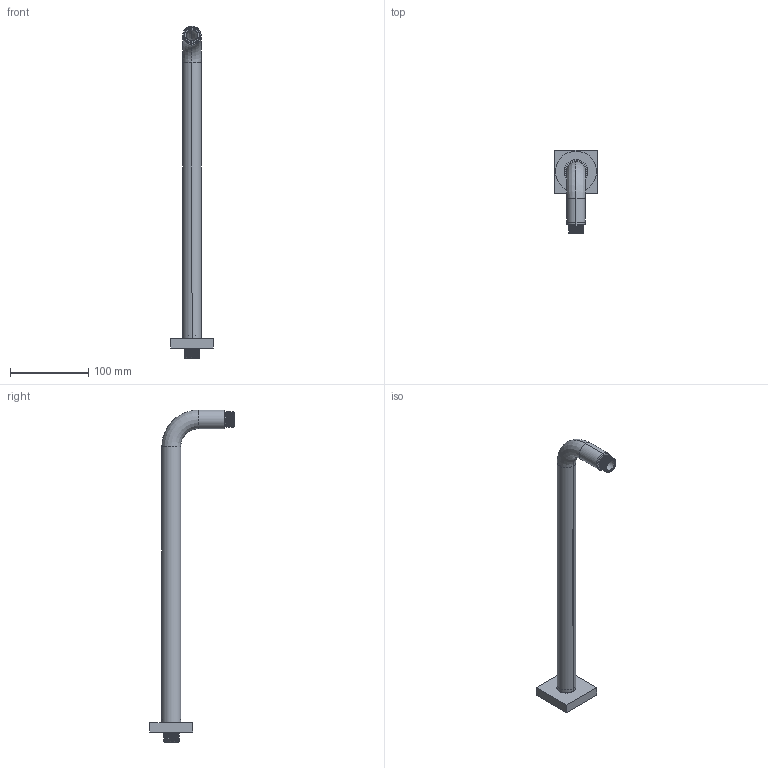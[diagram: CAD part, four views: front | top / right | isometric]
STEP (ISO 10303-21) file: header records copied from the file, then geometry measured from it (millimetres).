
FILE_DESCRIPTION(/* description */ (''),/* implementation_level */ '2;1');
FILE_NAME(/* name */ 'c:\worker\convert-fusion-r05\tmp\job-1\149\output\files\0319fdd0-7cb2-4aa0-8b2a-482ba26fd6fd\26d5d32e-8ac6-46c5-8760-7bb6c9cf09ba.stp',/* time_stamp */ '2019-08-01T11:49:49+00:00',/* author */ (''),/* organization */ (''),/* preprocessor_version */ 'ST-DEVELOPER v18',/* originating_system */ 'Autodesk Translation Framework v8.2.0.1029',/* authorisation */ '');
FILE_SCHEMA (('AUTOMOTIVE_DESIGN { 1 0 10303 214 3 1 1 }'));
Length unit declared in the file: millimetre
Products named in the file (1): !RA01/K X
Bounding box: 55 x 108 x 425 mm (x, y, z)
Volume: 49773.2 mm3; surface area: 82304.2 mm2
Topology: 5 solids, 5 shells, 107 faces, 265 edges, 176 vertices
Faces by surface type: cylinder 53, plane 26, bspline 16, cone 11, torus 1
Full cylindrical faces by diameter (mm): 14 x2, 17.534 x16, 18 x2, 19.822 x16, 22.5 x2, 22.7 x2, 24.5 x2, 27.5 x1, 30.5 x1, 52 x1
Entity records: 8206 total; most frequent: CARTESIAN_POINT 5763, ORIENTED_EDGE 530, DIRECTION 436, EDGE_CURVE 265, AXIS2_PLACEMENT_3D 178, VERTEX_POINT 176, EDGE_LOOP 125, FACE_OUTER_BOUND 107
